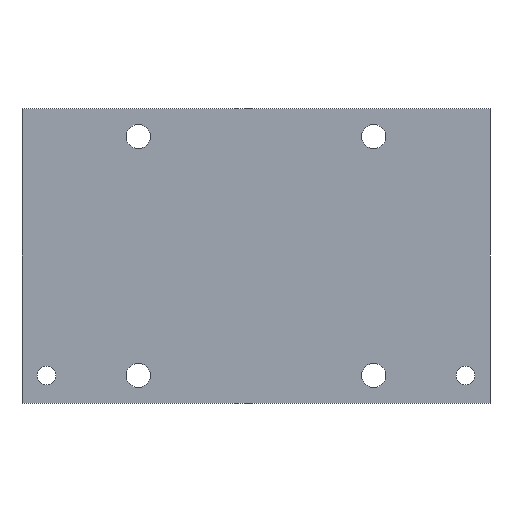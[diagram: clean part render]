
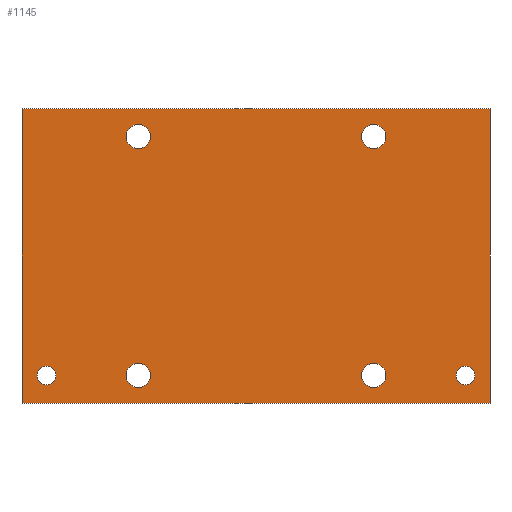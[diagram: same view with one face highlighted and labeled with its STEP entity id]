
A CAD part, front view. The second image highlights one B-rep face of the part: STEP entity #1145.
In plain terms, the highlighted planar face has unit normal (0, -1, 0).
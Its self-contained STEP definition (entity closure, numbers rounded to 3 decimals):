
#13=DIRECTION('',(0.,0.,1.));
#14=VECTOR('',#13,80.);
#15=CARTESIAN_POINT('',(63.65,0.,-40.));
#16=LINE('',#15,#14);
#17=DIRECTION('',(-1.,0.,0.));
#18=VECTOR('',#17,127.3);
#19=CARTESIAN_POINT('',(63.65,0.,40.));
#20=LINE('',#19,#18);
#21=DIRECTION('',(-1.,0.,0.));
#22=VECTOR('',#21,127.3);
#23=CARTESIAN_POINT('',(63.65,0.,-40.));
#24=LINE('',#23,#22);
#25=CARTESIAN_POINT('',(-32.,0.,-32.5));
#26=DIRECTION('',(0.,1.,0.));
#27=DIRECTION('',(1.,0.,0.));
#28=AXIS2_PLACEMENT_3D('',#25,#26,#27);
#30=CARTESIAN_POINT('',(-32.,0.,-32.5));
#31=DIRECTION('',(0.,1.,0.));
#32=DIRECTION('',(-1.,0.,0.));
#33=AXIS2_PLACEMENT_3D('',#30,#31,#32);
#35=CARTESIAN_POINT('',(32.,0.,-32.5));
#36=DIRECTION('',(0.,1.,0.));
#37=DIRECTION('',(1.,0.,0.));
#38=AXIS2_PLACEMENT_3D('',#35,#36,#37);
#40=CARTESIAN_POINT('',(32.,0.,-32.5));
#41=DIRECTION('',(0.,1.,0.));
#42=DIRECTION('',(-1.,0.,0.));
#43=AXIS2_PLACEMENT_3D('',#40,#41,#42);
#45=CARTESIAN_POINT('',(-32.,0.,32.5));
#46=DIRECTION('',(0.,1.,0.));
#47=DIRECTION('',(1.,0.,0.));
#48=AXIS2_PLACEMENT_3D('',#45,#46,#47);
#50=CARTESIAN_POINT('',(-32.,0.,32.5));
#51=DIRECTION('',(0.,1.,0.));
#52=DIRECTION('',(-1.,0.,0.));
#53=AXIS2_PLACEMENT_3D('',#50,#51,#52);
#55=CARTESIAN_POINT('',(32.,0.,32.5));
#56=DIRECTION('',(0.,1.,0.));
#57=DIRECTION('',(1.,0.,0.));
#58=AXIS2_PLACEMENT_3D('',#55,#56,#57);
#60=CARTESIAN_POINT('',(32.,0.,32.5));
#61=DIRECTION('',(0.,1.,0.));
#62=DIRECTION('',(-1.,0.,0.));
#63=AXIS2_PLACEMENT_3D('',#60,#61,#62);
#65=CARTESIAN_POINT('',(-57.,0.,-32.5));
#66=DIRECTION('',(0.,-1.,0.));
#67=DIRECTION('',(1.,0.,0.));
#68=AXIS2_PLACEMENT_3D('',#65,#66,#67);
#70=CARTESIAN_POINT('',(-57.,0.,-32.5));
#71=DIRECTION('',(0.,-1.,0.));
#72=DIRECTION('',(-1.,0.,0.));
#73=AXIS2_PLACEMENT_3D('',#70,#71,#72);
#75=CARTESIAN_POINT('',(57.,0.,-32.5));
#76=DIRECTION('',(0.,-1.,0.));
#77=DIRECTION('',(1.,0.,0.));
#78=AXIS2_PLACEMENT_3D('',#75,#76,#77);
#80=CARTESIAN_POINT('',(57.,0.,-32.5));
#81=DIRECTION('',(0.,-1.,0.));
#82=DIRECTION('',(-1.,0.,0.));
#83=AXIS2_PLACEMENT_3D('',#80,#81,#82);
#317=DIRECTION('',(0.,0.,1.));
#318=VECTOR('',#317,80.);
#319=CARTESIAN_POINT('',(-63.65,0.,-40.));
#320=LINE('',#319,#318);
#809=CARTESIAN_POINT('',(63.65,0.,40.));
#811=VERTEX_POINT('',#809);
#815=CARTESIAN_POINT('',(63.65,0.,-40.));
#816=VERTEX_POINT('',#815);
#817=CARTESIAN_POINT('',(-63.65,0.,40.));
#819=VERTEX_POINT('',#817);
#823=CARTESIAN_POINT('',(-63.65,0.,-40.));
#824=VERTEX_POINT('',#823);
#957=CARTESIAN_POINT('',(-54.445,0.,-32.5));
#958=CARTESIAN_POINT('',(-59.555,0.,-32.5));
#959=VERTEX_POINT('',#957);
#960=VERTEX_POINT('',#958);
#965=CARTESIAN_POINT('',(59.555,0.,-32.5));
#966=CARTESIAN_POINT('',(54.445,0.,-32.5));
#967=VERTEX_POINT('',#965);
#968=VERTEX_POINT('',#966);
#981=CARTESIAN_POINT('',(-28.7,0.,-32.5));
#982=CARTESIAN_POINT('',(-35.3,0.,-32.5));
#983=VERTEX_POINT('',#981);
#984=VERTEX_POINT('',#982);
#997=CARTESIAN_POINT('',(35.3,0.,-32.5));
#998=CARTESIAN_POINT('',(28.7,0.,-32.5));
#999=VERTEX_POINT('',#997);
#1000=VERTEX_POINT('',#998);
#1013=CARTESIAN_POINT('',(-28.7,0.,32.5));
#1014=CARTESIAN_POINT('',(-35.3,0.,32.5));
#1015=VERTEX_POINT('',#1013);
#1016=VERTEX_POINT('',#1014);
#1029=CARTESIAN_POINT('',(35.3,0.,32.5));
#1030=CARTESIAN_POINT('',(28.7,0.,32.5));
#1031=VERTEX_POINT('',#1029);
#1032=VERTEX_POINT('',#1030);
#1096=CARTESIAN_POINT('',(63.65,0.,-40.));
#1097=DIRECTION('',(0.,-1.,0.));
#1098=DIRECTION('',(0.,0.,1.));
#1099=AXIS2_PLACEMENT_3D('',#1096,#1097,#1098);
#1100=PLANE('',#1099);
#1101=ORIENTED_EDGE('',*,*,#1076,.F.);
#1103=ORIENTED_EDGE('',*,*,#1102,.T.);
#1105=ORIENTED_EDGE('',*,*,#1104,.T.);
#1106=ORIENTED_EDGE('',*,*,#1087,.F.);
#1107=EDGE_LOOP('',(#1101,#1103,#1105,#1106));
#1108=FACE_OUTER_BOUND('',#1107,.F.);
#1110=ORIENTED_EDGE('',*,*,#1109,.F.);
#1112=ORIENTED_EDGE('',*,*,#1111,.F.);
#1113=EDGE_LOOP('',(#1110,#1112));
#1114=FACE_BOUND('',#1113,.F.);
#1116=ORIENTED_EDGE('',*,*,#1115,.F.);
#1118=ORIENTED_EDGE('',*,*,#1117,.F.);
#1119=EDGE_LOOP('',(#1116,#1118));
#1120=FACE_BOUND('',#1119,.F.);
#1122=ORIENTED_EDGE('',*,*,#1121,.F.);
#1124=ORIENTED_EDGE('',*,*,#1123,.F.);
#1125=EDGE_LOOP('',(#1122,#1124));
#1126=FACE_BOUND('',#1125,.F.);
#1128=ORIENTED_EDGE('',*,*,#1127,.F.);
#1130=ORIENTED_EDGE('',*,*,#1129,.F.);
#1131=EDGE_LOOP('',(#1128,#1130));
#1132=FACE_BOUND('',#1131,.F.);
#1134=ORIENTED_EDGE('',*,*,#1133,.T.);
#1136=ORIENTED_EDGE('',*,*,#1135,.T.);
#1137=EDGE_LOOP('',(#1134,#1136));
#1138=FACE_BOUND('',#1137,.F.);
#1140=ORIENTED_EDGE('',*,*,#1139,.T.);
#1142=ORIENTED_EDGE('',*,*,#1141,.T.);
#1143=EDGE_LOOP('',(#1140,#1142));
#1144=FACE_BOUND('',#1143,.F.);
#1145=ADVANCED_FACE('',(#1108,#1114,#1120,#1126,#1132,#1138,#1144),#1100,.T.);
#29=CIRCLE('',#28,3.3);
#34=CIRCLE('',#33,3.3);
#39=CIRCLE('',#38,3.3);
#44=CIRCLE('',#43,3.3);
#49=CIRCLE('',#48,3.3);
#54=CIRCLE('',#53,3.3);
#59=CIRCLE('',#58,3.3);
#64=CIRCLE('',#63,3.3);
#69=CIRCLE('',#68,2.555);
#74=CIRCLE('',#73,2.555);
#79=CIRCLE('',#78,2.555);
#84=CIRCLE('',#83,2.555);
#1076=EDGE_CURVE('',#816,#811,#16,.T.);
#1087=EDGE_CURVE('',#811,#819,#20,.T.);
#1102=EDGE_CURVE('',#816,#824,#24,.T.);
#1104=EDGE_CURVE('',#824,#819,#320,.T.);
#1109=EDGE_CURVE('',#983,#984,#29,.T.);
#1111=EDGE_CURVE('',#984,#983,#34,.T.);
#1115=EDGE_CURVE('',#999,#1000,#39,.T.);
#1117=EDGE_CURVE('',#1000,#999,#44,.T.);
#1121=EDGE_CURVE('',#1015,#1016,#49,.T.);
#1123=EDGE_CURVE('',#1016,#1015,#54,.T.);
#1127=EDGE_CURVE('',#1031,#1032,#59,.T.);
#1129=EDGE_CURVE('',#1032,#1031,#64,.T.);
#1133=EDGE_CURVE('',#959,#960,#69,.T.);
#1135=EDGE_CURVE('',#960,#959,#74,.T.);
#1139=EDGE_CURVE('',#967,#968,#79,.T.);
#1141=EDGE_CURVE('',#968,#967,#84,.T.);
